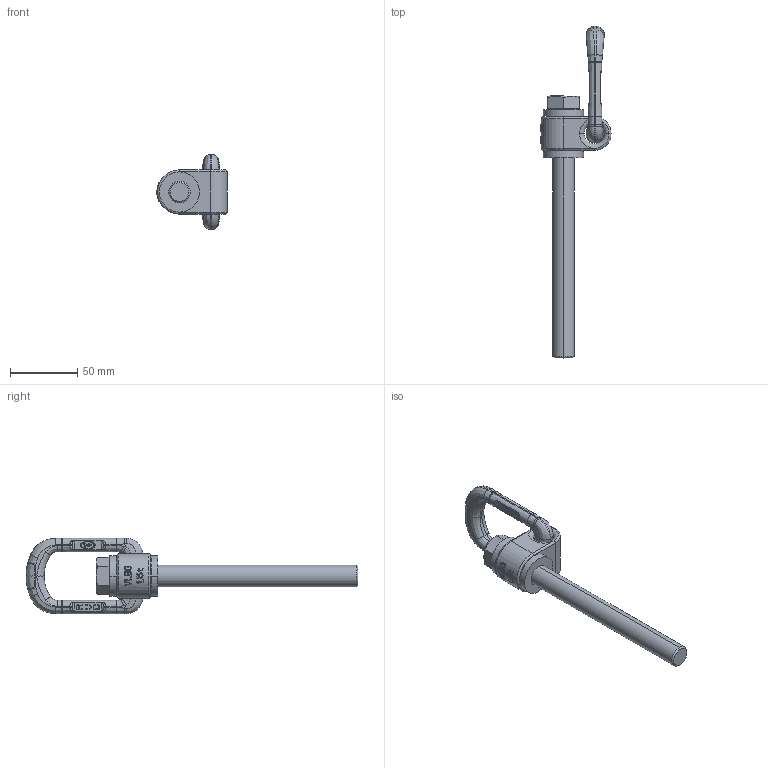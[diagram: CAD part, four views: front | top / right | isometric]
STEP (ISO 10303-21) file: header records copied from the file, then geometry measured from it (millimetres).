
FILE_DESCRIPTION((''),'2;1');
FILE_NAME('001-M31814-P-2_ASM','2016-07-01T',('Andreas.Wendler'),(''),'PRO/ENGINEER BY PARAMETRIC TECHNOLOGY CORPORATION, 2011490','PRO/ENGINEER BY PARAMETRIC TECHNOLOGY CORPORATION, 2011490','');
FILE_SCHEMA(('CONFIG_CONTROL_DESIGN'));
Length unit declared in the file: millimetre
Products named in the file (5): 001-M31814-P-1; 001-M12995-RT2; 001-M31814-P-5; 001-M31120-P-2; 001-M31814-P-2_ASM
Assembly tree (4 placements, depth 2):
  001-M31814-P-2_ASM
    001-M31814-P-1
    001-M12995-RT2
    001-M31814-P-5
    001-M31120-P-2
Bounding box: 52.3 x 247.35 x 56 mm (x, y, z)
Volume: 97048.9 mm3; surface area: 33935.5 mm2
Topology: 4 solids, 4 shells, 760 faces, 2014 edges, 1292 vertices
Faces by surface type: plane 486, bspline 140, cylinder 62, extrusion 52, torus 12, cone 8
Entity records: 32168 total; most frequent: CARTESIAN_POINT 14748, ORIENTED_EDGE 4028, DIRECTION 2888, EDGE_CURVE 2014, VERTEX_POINT 1292, VECTOR 1190, LINE 1138, AXIS2_PLACEMENT_3D 849
